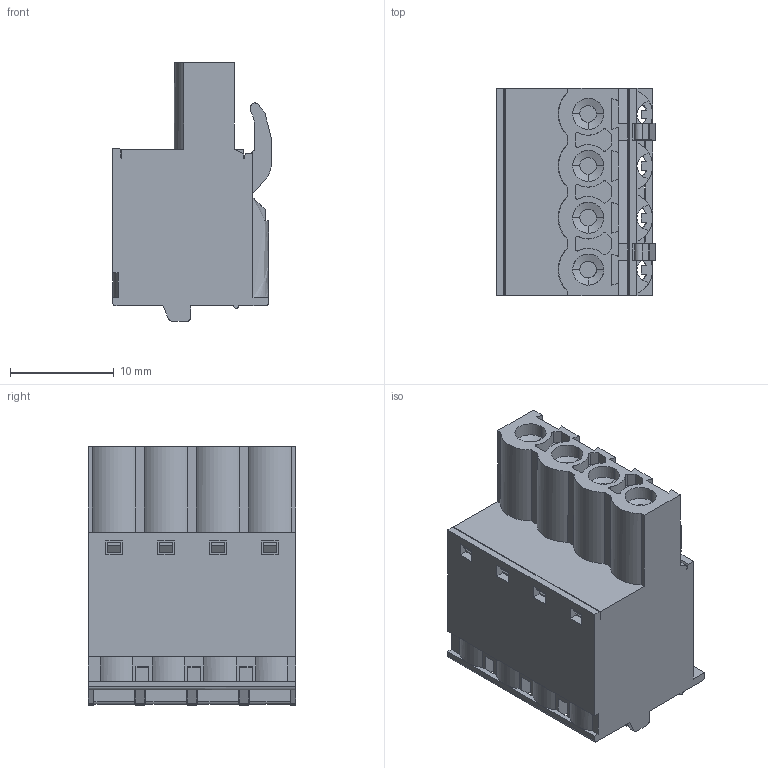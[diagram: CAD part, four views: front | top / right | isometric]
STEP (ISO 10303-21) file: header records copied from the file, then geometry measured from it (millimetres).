
FILE_DESCRIPTION(('FreeCAD Model'),'2;1');
FILE_NAME('Open CASCADE Shape Model','2023-04-26T12:12:30',('Author'),( ''),'Open CASCADE STEP processor 7.6','FreeCAD','Unknown');
FILE_SCHEMA(('AUTOMOTIVE_DESIGN { 1 0 10303 214 1 1 1 1 }'));
Products named in the file (1): BR1704-FM
Bounding box: 15.25 x 20 x 24.95 mm (x, y, z)
Surface area: 4725.2 mm2 (no closed solid volume)
Topology: 0 solids, 1 shells, 815 faces, 2392 edges, 1566 vertices
Faces by surface type: bspline 815
Entity records: 63311 total; most frequent: CARTESIAN_POINT 32317, B_SPLINE_CURVE_WITH_KNOTS 6740, ORIENTED_EDGE 4780, PCURVE 4780, DEFINITIONAL_REPRESENTATION 4780, EDGE_CURVE 2392, SURFACE_CURVE 2390, VERTEX_POINT 1566
